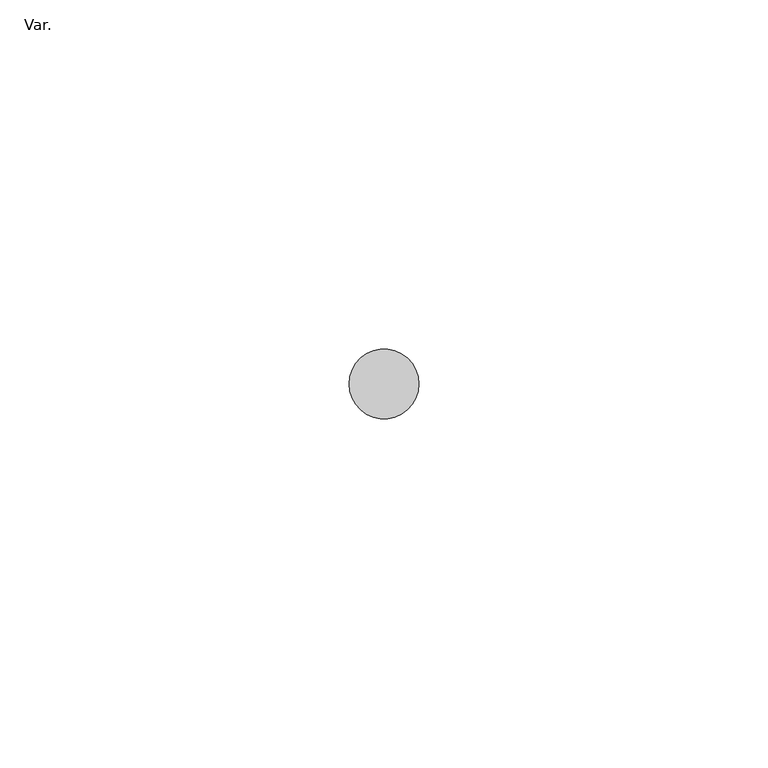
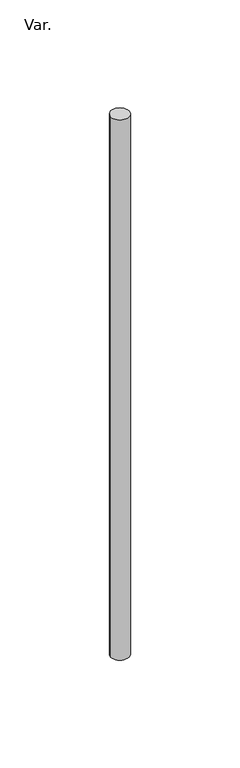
"""IFC4 building model written with IfcOpenShell, lengths in millimetres: pipe fitting geometry, AmancoWavin_ConexõesdeTubos_EsfotoSilentiumNãoUsarBarrasemBase : Var.."""

from ifc_helpers import new_model, si_unit, point, origin, origin_with_axes, origin_2d, place, context, project, spatial, circle_curve, trimmed, segment, composite_curve, outline, extrude, source, transform, mapped, element, save


def var_e0431023(model_context):
    return source(origin(), model_context, "Body", "SweptSolid", [
        extrude(outline(composite_curve([segment(trimmed(circle_curve(origin_2d(), 5.0), [point((-5.0, 0.0))], [point((5.0, 0.0))], False, "CARTESIAN"), True, "CONTINUOUS"), segment(trimmed(circle_curve(origin_2d(), 5.0), [point((5.0, 0.0))], [point((-5.0, 0.0))], False, "CARTESIAN"), True, "CONTINUOUS")], self_intersect=False)), origin_with_axes(), (0.0, 0.0, 1.0), 311.98),
    ])


if __name__ == "__main__":
    model = new_model("IFC4")
    model_context = context("Model", 3, world=origin())
    ifc_project = project(units=[si_unit("LENGTHUNIT", "METRE", prefix="MILLI")], contexts=[model_context])
    site = spatial("IfcSite", under=ifc_project)
    building = spatial("IfcBuilding", under=site)
    placement = place(None, origin())
    var_shape = var_e0431023(model_context)
    element("IfcPipeFitting", 1, ObjectType="AmancoWavin_ConexõesdeTubos_EsfotoSilentiumNãoUsarBarrasemBase : Var.", at=placement, inside=building, context=model_context, shape_type="MappedRepresentation", body=[
        mapped(var_shape, transform((0.0, 0.0, 0.0), x_axis=(1.0, 0.0, 0.0), y_axis=(0.0, 1.0, 0.0), z_axis=(0.0, 0.0, 1.0))),
    ])
    save(model, "model.ifc")
